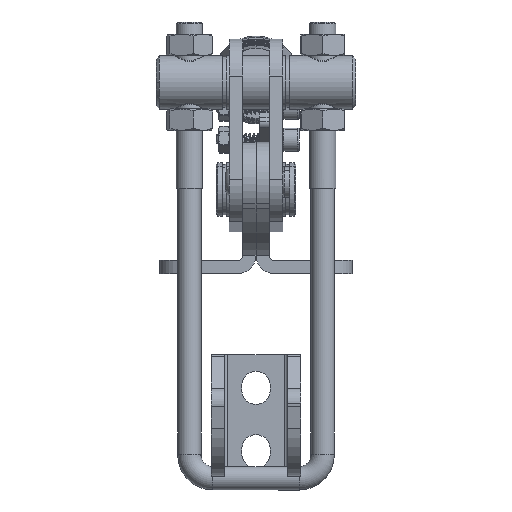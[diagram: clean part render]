
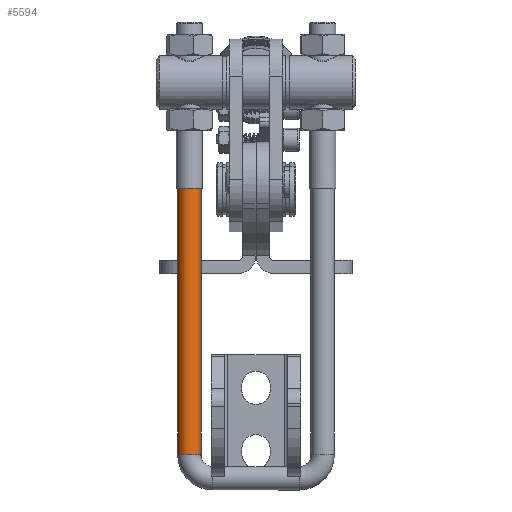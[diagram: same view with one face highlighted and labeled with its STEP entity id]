
A CAD part, left-side view. The second image highlights one B-rep face of the part: STEP entity #5594.
In plain terms, the highlighted cylindrical face has radius 3.5 mm (diameter 7 mm), a partial arc.
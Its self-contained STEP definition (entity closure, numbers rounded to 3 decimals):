
#2576 = EDGE_CURVE ( 'NONE', #23014, #20618, #13128, .T. ) ;
#3331 = DIRECTION ( 'NONE',  ( 0., 0., -1. ) ) ;
#3586 = DIRECTION ( 'NONE',  ( 0., 0., 1. ) ) ;
#4533 = DIRECTION ( 'NONE',  ( -1., 0., 0. ) ) ;
#5594 = ADVANCED_FACE ( 'NONE', ( #9530 ), #45134, .T. ) ;
#6708 = ORIENTED_EDGE ( 'NONE', *, *, #62206, .F. ) ;
#9530 = FACE_OUTER_BOUND ( 'NONE', #42403, .T. ) ;
#9562 = VECTOR ( 'NONE', #52644, 1000. ) ;
#12832 = CARTESIAN_POINT ( 'NONE',  ( 87., 0., 23.5 ) ) ;
#13128 = CIRCLE ( 'NONE', #50703, 3.5 ) ;
#13492 = ORIENTED_EDGE ( 'NONE', *, *, #53860, .F. ) ;
#15396 = DIRECTION ( 'NONE',  ( 1., 0., 0. ) ) ;
#20142 = AXIS2_PLACEMENT_3D ( 'NONE', #29041, #4533, #3586 ) ;
#20618 = VERTEX_POINT ( 'NONE', #31706 ) ;
#23014 = VERTEX_POINT ( 'NONE', #12832 ) ;
#23252 = CARTESIAN_POINT ( 'NONE',  ( 7., 0., 16.5 ) ) ;
#24559 = ORIENTED_EDGE ( 'NONE', *, *, #39872, .T. ) ;
#29041 = CARTESIAN_POINT ( 'NONE',  ( 7., 0., 20. ) ) ;
#31706 = CARTESIAN_POINT ( 'NONE',  ( 87., 0., 16.5 ) ) ;
#34379 = DIRECTION ( 'NONE',  ( 1., 0., 0. ) ) ;
#34920 = VECTOR ( 'NONE', #34379, 1000. ) ;
#35720 = CARTESIAN_POINT ( 'NONE',  ( 7., 0., 23.5 ) ) ;
#36196 = VERTEX_POINT ( 'NONE', #55088 ) ;
#37644 = LINE ( 'NONE', #23252, #9562 ) ;
#39266 = CARTESIAN_POINT ( 'NONE',  ( 7., 0., 23.5 ) ) ;
#39872 = EDGE_CURVE ( 'NONE', #36196, #20618, #37644, .T. ) ;
#42403 = EDGE_LOOP ( 'NONE', ( #13492, #6708, #24559, #45515 ) ) ;
#43183 = DIRECTION ( 'NONE',  ( 1., 0., 0. ) ) ;
#45134 = CYLINDRICAL_SURFACE ( 'NONE', #48560, 3.5 ) ;
#45515 = ORIENTED_EDGE ( 'NONE', *, *, #2576, .F. ) ;
#48560 = AXIS2_PLACEMENT_3D ( 'NONE', #58852, #15396, #54933 ) ;
#49604 = VERTEX_POINT ( 'NONE', #35720 ) ;
#50703 = AXIS2_PLACEMENT_3D ( 'NONE', #62429, #43183, #3331 ) ;
#52644 = DIRECTION ( 'NONE',  ( 1., 0., 0. ) ) ;
#53618 = LINE ( 'NONE', #39266, #34920 ) ;
#53860 = EDGE_CURVE ( 'NONE', #49604, #23014, #53618, .T. ) ;
#54933 = DIRECTION ( 'NONE',  ( 0., 0., -1. ) ) ;
#55088 = CARTESIAN_POINT ( 'NONE',  ( 7., 0., 16.5 ) ) ;
#57672 = CIRCLE ( 'NONE', #20142, 3.5 ) ;
#58852 = CARTESIAN_POINT ( 'NONE',  ( 7., 0., 20. ) ) ;
#62206 = EDGE_CURVE ( 'NONE', #36196, #49604, #57672, .T. ) ;
#62429 = CARTESIAN_POINT ( 'NONE',  ( 87., 0., 20. ) ) ;
